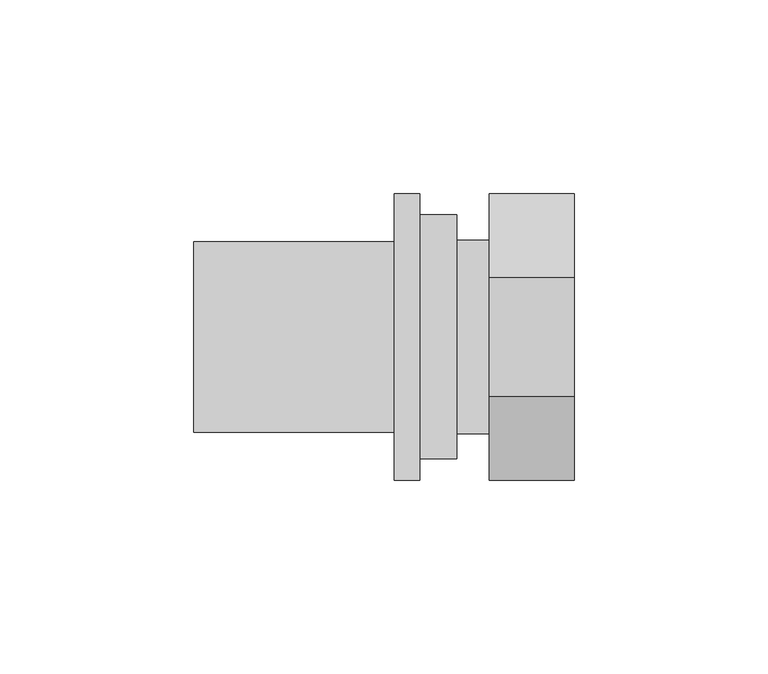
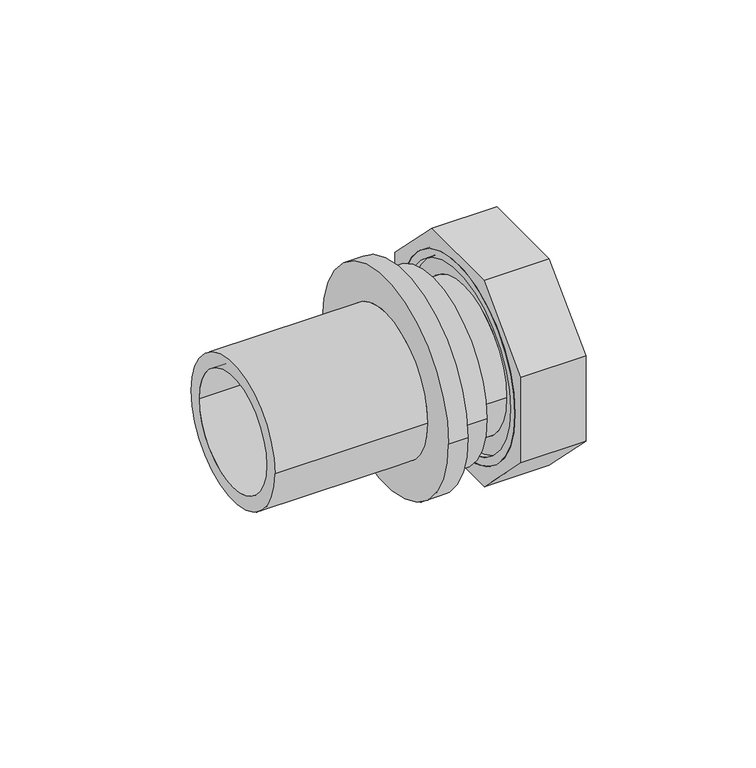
"""IFC4 building model written with IfcOpenShell, lengths in millimetres: pipe fitting geometry, REHAU_RAUTITAN_Adaptor_RX+_union nut : REHAU_RAUTITAN_Adaptor_RX+_union nut."""

from ifc_helpers import new_model, si_unit, point, frame, origin, origin_2d, place, context, project, spatial, polyline, circle_curve, trimmed, segment, composite_curve, outline, extrude, source, transform, mapped, element, save
from ifc_brep_helpers import plane_surface, cylinder_surface, revolved_surface, advanced_brep


def pipe_fitting_1432e17d(model_context):
    return source(origin(), model_context, "Body", "SolidModel", [
        extrude(outline(polyline([(-15.3259018, -37.0), (-37.0, -15.3259018), (-37.0, 15.3259018), (-15.3259018, 37.0), (15.3259018, 37.0), (37.0, 15.3259018), (37.0, -15.3259018), (15.3259018, -37.0), (-15.3259018, -37.0)]), holes=[composite_curve([segment(trimmed(circle_curve(origin_2d(), 33.5), [point((-33.5, 0.0))], [point((33.5, 0.0))], True, "CARTESIAN"), True, "CONTINUOUS"), segment(trimmed(circle_curve(origin_2d(), 33.5), [point((33.5, 0.0))], [point((-33.5, 0.0))], True, "CARTESIAN"), True, "CONTINUOUS")], self_intersect=False)]), frame((8.4, 0.0, 0.0), z_axis=(1.0, 0.0, 0.0), x_axis=(0.0, 1.0, 0.0)), (0.0, 0.0, 1.0), 22.0),
        advanced_brep(
        [(30.4, 33.5, 0.0), (30.4, -33.5, 0.0), (8.4, -33.5, 0.0), (8.4, 33.5, 0.0), (10.4, 32.7, 0.0), (10.4, -32.7, 0.0), (30.4, -32.7, 0.0), (30.4, 32.7, 0.0), (8.4, 30.7, 0.0), (8.4, -30.7, 0.0), (10.4, -30.7, 0.0), (10.4, 30.7, 0.0)],
        [
            (0, 1, circle_curve(frame((30.4, 0.0, 0.0), z_axis=(-1.0, 0.0, 0.0), x_axis=(0.0, -1.0, 0.0)), 33.5)),
            (1, 2),
            (2, 3, circle_curve(frame((8.4, 0.0, 0.0), z_axis=(1.0, 0.0, 0.0), x_axis=(0.0, -1.0, 0.0)), 33.5)),
            (3, 0),
            (4, 5, circle_curve(frame((10.4, 0.0, 0.0), z_axis=(-1.0, 0.0, 0.0), x_axis=(0.0, -1.0, 0.0)), 32.7)),
            (5, 6),
            (6, 7, circle_curve(frame((30.4, 0.0, 0.0), z_axis=(1.0, 0.0, 0.0), x_axis=(0.0, -1.0, 0.0)), 32.7)),
            (7, 4),
            (8, 9, circle_curve(frame((8.4, 0.0, 0.0), z_axis=(-1.0, 0.0, 0.0), x_axis=(0.0, -1.0, 0.0)), 30.7)),
            (9, 10),
            (10, 11, circle_curve(frame((10.4, 0.0, 0.0), z_axis=(1.0, 0.0, 0.0), x_axis=(0.0, -1.0, 0.0)), 30.7)),
            (11, 8),
            (1, 0, circle_curve(frame((30.4, 0.0, 0.0), z_axis=(-1.0, 0.0, 0.0), x_axis=(0.0, 1.0, 0.0)), 33.5)),
            (3, 2, circle_curve(frame((8.4, 0.0, 0.0), z_axis=(1.0, 0.0, 0.0), x_axis=(0.0, 1.0, 0.0)), 33.5)),
            (6, 7, circle_curve(frame((30.4, 0.0, 0.0), z_axis=(-1.0, 0.0, 0.0), x_axis=(0.0, 1.0, 0.0)), 32.7)),
            (5, 4, circle_curve(frame((10.4, 0.0, 0.0), z_axis=(-1.0, 0.0, 0.0), x_axis=(0.0, 1.0, 0.0)), 32.7)),
            (10, 11, circle_curve(frame((10.4, 0.0, 0.0), z_axis=(-1.0, 0.0, 0.0), x_axis=(0.0, 1.0, 0.0)), 30.7)),
            (9, 8, circle_curve(frame((8.4, 0.0, 0.0), z_axis=(-1.0, 0.0, 0.0), x_axis=(0.0, 1.0, 0.0)), 30.7)),
        ],
        [
            cylinder_surface(frame((0.0, 0.0, 0.0), z_axis=(1.0, 0.0, 0.0), x_axis=(0.0, -1.0, 0.0)), 33.5),
            revolved_surface(polyline([(30.4, -32.7, 0.0), (10.4, -32.7, 0.0)]), (0.0, 0.0, 0.0), (1.0, 0.0, 0.0)),
            revolved_surface(polyline([(10.4, -30.7, 0.0), (8.4, -30.7, 0.0)]), (0.0, 0.0, 0.0), (1.0, 0.0, 0.0)),
            cylinder_surface(frame((0.0, 0.0, 0.0), z_axis=(1.0, 0.0, 0.0), x_axis=(0.0, 1.0, 0.0)), 33.5),
            plane_surface(frame((30.4, 0.0, 0.0), z_axis=(1.0, 0.0, 0.0), x_axis=(0.0, 1.0, 0.0))),
            revolved_surface(polyline([(30.4, 32.7, 0.0), (10.4, 32.7, 0.0)]), (0.0, 0.0, 0.0), (1.0, 0.0, 0.0)),
            plane_surface(frame((10.4, 0.0, 0.0), z_axis=(1.0, 0.0, 0.0), x_axis=(0.0, 1.0, 0.0))),
            revolved_surface(polyline([(10.4, 30.7, 0.0), (8.4, 30.7, 0.0)]), (0.0, 0.0, 0.0), (1.0, 0.0, 0.0)),
            plane_surface(frame((8.4, 0.0, 0.0), z_axis=(-1.0, 0.0, 0.0), x_axis=(0.0, 1.0, 0.0))),
        ],
        [
            (0, [[1, 2, 3, 4]]),
            (1, [[5, 6, 7, 8]]),
            (2, [[9, 10, 11, 12]]),
            (3, [[13, -4, 14, -2]]),
            (4, [[-13, -1], [15, -7]]),
            (5, [[16, -8, -15, -6]]),
            (6, [[-16, -5], [17, -11]]),
            (7, [[18, -12, -17, -10]]),
            (8, [[-14, -3], [-18, -9]]),
        ],
    ),
        advanced_brep(
        [(10.4, 25.0, 0.0), (10.4, -25.0, 0.0), (0.0, -25.0, 0.0), (0.0, 25.0, 0.0), (14.0, 32.7, 0.0), (14.0, -32.7, 0.0), (10.4, -32.7, 0.0), (10.4, 32.7, 0.0), (1.4730817, 18.75, 0.0), (1.4730817, -18.75, 0.0), (14.0, -18.75, 0.0), (14.0, 18.75, 0.0), (0.0, 16.5764556, 0.0), (0.0, -16.5764556, 0.0), (1.4730817, -16.5764556, 0.0), (1.4730817, 16.5764556, 0.0)],
        [
            (0, 1, circle_curve(frame((10.4, 0.0, 0.0), z_axis=(-1.0, 0.0, 0.0), x_axis=(0.0, -1.0, 0.0)), 25.0)),
            (1, 2),
            (2, 3, circle_curve(frame((0.0, 0.0, 0.0), z_axis=(1.0, 0.0, 0.0), x_axis=(0.0, -1.0, 0.0)), 25.0)),
            (3, 0),
            (4, 5, circle_curve(frame((14.0, 0.0, 0.0), z_axis=(-1.0, 0.0, 0.0), x_axis=(0.0, -1.0, 0.0)), 32.7)),
            (5, 6),
            (6, 7, circle_curve(frame((10.4, 0.0, 0.0), z_axis=(1.0, 0.0, 0.0), x_axis=(0.0, -1.0, 0.0)), 32.7)),
            (7, 4),
            (8, 9, circle_curve(frame((1.4730817, 0.0, 0.0), z_axis=(-1.0, 0.0, 0.0), x_axis=(0.0, -1.0, 0.0)), 18.75)),
            (9, 10),
            (10, 11, circle_curve(frame((14.0, 0.0, 0.0), z_axis=(1.0, 0.0, 0.0), x_axis=(0.0, -1.0, 0.0)), 18.75)),
            (11, 8),
            (2, 3, circle_curve(frame((0.0, 0.0, 0.0), z_axis=(-1.0, 0.0, 0.0), x_axis=(0.0, 1.0, 0.0)), 25.0)),
            (12, 13, circle_curve(frame((0.0, 0.0, 0.0), z_axis=(1.0, 0.0, 0.0), x_axis=(0.0, 1.0, 0.0)), 16.5764556)),
            (13, 12, circle_curve(frame((0.0, 0.0, 0.0), z_axis=(1.0, 0.0, 0.0), x_axis=(0.0, -1.0, 0.0)), 16.5764556)),
            (1, 0, circle_curve(frame((10.4, 0.0, 0.0), z_axis=(-1.0, 0.0, 0.0), x_axis=(0.0, 1.0, 0.0)), 25.0)),
            (6, 7, circle_curve(frame((10.4, 0.0, 0.0), z_axis=(-1.0, 0.0, 0.0), x_axis=(0.0, 1.0, 0.0)), 32.7)),
            (5, 4, circle_curve(frame((14.0, 0.0, 0.0), z_axis=(-1.0, 0.0, 0.0), x_axis=(0.0, 1.0, 0.0)), 32.7)),
            (10, 11, circle_curve(frame((14.0, 0.0, 0.0), z_axis=(-1.0, 0.0, 0.0), x_axis=(0.0, 1.0, 0.0)), 18.75)),
            (9, 8, circle_curve(frame((1.4730817, 0.0, 0.0), z_axis=(-1.0, 0.0, 0.0), x_axis=(0.0, 1.0, 0.0)), 18.75)),
            (13, 14),
            (14, 15, circle_curve(frame((1.4730817, 0.0, 0.0), z_axis=(1.0, 0.0, 0.0), x_axis=(0.0, -1.0, 0.0)), 16.5764556)),
            (15, 12),
            (14, 15, circle_curve(frame((1.4730817, 0.0, 0.0), z_axis=(-1.0, 0.0, 0.0), x_axis=(0.0, 1.0, 0.0)), 16.5764556)),
        ],
        [
            cylinder_surface(frame((0.0, 0.0, 0.0), z_axis=(1.0, 0.0, 0.0), x_axis=(0.0, -1.0, 0.0)), 25.0),
            cylinder_surface(frame((0.0, 0.0, 0.0), z_axis=(1.0, 0.0, 0.0), x_axis=(0.0, -1.0, 0.0)), 32.7),
            revolved_surface(polyline([(14.0, -18.75, 0.0), (1.4730817, -18.75, 0.0)]), (0.0, 0.0, 0.0), (1.0, 0.0, 0.0)),
            plane_surface(frame((0.0, 0.0, 0.0), z_axis=(-1.0, 0.0, 0.0), x_axis=(0.0, 1.0, 0.0))),
            cylinder_surface(frame((0.0, 0.0, 0.0), z_axis=(1.0, 0.0, 0.0), x_axis=(0.0, 1.0, 0.0)), 25.0),
            plane_surface(frame((10.4, 0.0, 0.0), z_axis=(-1.0, 0.0, 0.0), x_axis=(0.0, 1.0, 0.0))),
            cylinder_surface(frame((0.0, 0.0, 0.0), z_axis=(1.0, 0.0, 0.0), x_axis=(0.0, 1.0, 0.0)), 32.7),
            plane_surface(frame((14.0, 0.0, 0.0), z_axis=(1.0, 0.0, 0.0), x_axis=(0.0, 1.0, 0.0))),
            revolved_surface(polyline([(14.0, 18.75, 0.0), (1.4730817, 18.75, 0.0)]), (0.0, 0.0, 0.0), (1.0, 0.0, 0.0)),
            revolved_surface(polyline([(1.4730817, -16.5764556, 0.0), (0.0, -16.5764556, 0.0)]), (0.0, 0.0, 0.0), (1.0, 0.0, 0.0)),
            plane_surface(frame((1.4730817, 0.0, 0.0), z_axis=(1.0, 0.0, 0.0), x_axis=(0.0, 1.0, 0.0))),
            revolved_surface(polyline([(1.4730817, 16.5764556, 0.0), (0.0, 16.5764556, 0.0)]), (0.0, 0.0, 0.0), (1.0, 0.0, 0.0)),
        ],
        [
            (0, [[1, 2, 3, 4]]),
            (1, [[5, 6, 7, 8]]),
            (2, [[9, 10, 11, 12]]),
            (3, [[13, -3], [14, 15]]),
            (4, [[16, -4, -13, -2]]),
            (5, [[17, -7], [-16, -1]]),
            (6, [[18, -8, -17, -6]]),
            (7, [[-18, -5], [19, -11]]),
            (8, [[20, -12, -19, -10]]),
            (9, [[-15, 21, 22, 23]]),
            (10, [[-20, -9], [24, -22]]),
            (11, [[-14, -23, -24, -21]]),
        ],
    ),
        advanced_brep(
        [(0.0, 31.5, 0.0), (0.0, -31.5, 0.0), (-9.6, -31.5, 0.0), (-9.6, 31.5, 0.0), (-68.0, 19.75, 0.0), (-68.0, -19.75, 0.0), (0.0, -19.75, 0.0), (0.0, 19.75, 0.0), (-16.2, 24.6, 0.0), (-16.2, -24.6, 0.0), (-68.0, -24.6, 0.0), (-68.0, 24.6, 0.0), (-9.6, 37.0, 0.0), (-9.6, -37.0, 0.0), (-16.2, -37.0, 0.0), (-16.2, 37.0, 0.0)],
        [
            (0, 1, circle_curve(frame((0.0, 0.0, 0.0), z_axis=(-1.0, 0.0, 0.0), x_axis=(0.0, -1.0, 0.0)), 31.5)),
            (1, 2),
            (2, 3, circle_curve(frame((-9.6, 0.0, 0.0), z_axis=(1.0, 0.0, 0.0), x_axis=(0.0, -1.0, 0.0)), 31.5)),
            (3, 0),
            (4, 5, circle_curve(frame((-68.0, 0.0, 0.0), z_axis=(-1.0, 0.0, 0.0), x_axis=(0.0, -1.0, 0.0)), 19.75)),
            (5, 6),
            (6, 7, circle_curve(frame((0.0, 0.0, 0.0), z_axis=(1.0, 0.0, 0.0), x_axis=(0.0, -1.0, 0.0)), 19.75)),
            (7, 4),
            (8, 9, circle_curve(frame((-16.2, 0.0, 0.0), z_axis=(-1.0, 0.0, 0.0), x_axis=(0.0, -1.0, 0.0)), 24.6)),
            (9, 10),
            (10, 11, circle_curve(frame((-68.0, 0.0, 0.0), z_axis=(1.0, 0.0, 0.0), x_axis=(0.0, -1.0, 0.0)), 24.6)),
            (11, 8),
            (12, 13, circle_curve(frame((-9.6, 0.0, 0.0), z_axis=(-1.0, 0.0, 0.0), x_axis=(0.0, -1.0, 0.0)), 37.0)),
            (13, 14),
            (14, 15, circle_curve(frame((-16.2, 0.0, 0.0), z_axis=(1.0, 0.0, 0.0), x_axis=(0.0, -1.0, 0.0)), 37.0)),
            (15, 12),
            (1, 0, circle_curve(frame((0.0, 0.0, 0.0), z_axis=(-1.0, 0.0, 0.0), x_axis=(0.0, 1.0, 0.0)), 31.5)),
            (3, 2, circle_curve(frame((-9.6, 0.0, 0.0), z_axis=(1.0, 0.0, 0.0), x_axis=(0.0, 1.0, 0.0)), 31.5)),
            (6, 7, circle_curve(frame((0.0, 0.0, 0.0), z_axis=(-1.0, 0.0, 0.0), x_axis=(0.0, 1.0, 0.0)), 19.75)),
            (5, 4, circle_curve(frame((-68.0, 0.0, 0.0), z_axis=(-1.0, 0.0, 0.0), x_axis=(0.0, 1.0, 0.0)), 19.75)),
            (10, 11, circle_curve(frame((-68.0, 0.0, 0.0), z_axis=(-1.0, 0.0, 0.0), x_axis=(0.0, 1.0, 0.0)), 24.6)),
            (9, 8, circle_curve(frame((-16.2, 0.0, 0.0), z_axis=(-1.0, 0.0, 0.0), x_axis=(0.0, 1.0, 0.0)), 24.6)),
            (14, 15, circle_curve(frame((-16.2, 0.0, 0.0), z_axis=(-1.0, 0.0, 0.0), x_axis=(0.0, 1.0, 0.0)), 37.0)),
            (13, 12, circle_curve(frame((-9.6, 0.0, 0.0), z_axis=(-1.0, 0.0, 0.0), x_axis=(0.0, 1.0, 0.0)), 37.0)),
        ],
        [
            cylinder_surface(frame((0.0, 0.0, 0.0), z_axis=(1.0, 0.0, 0.0), x_axis=(0.0, -1.0, 0.0)), 31.5),
            revolved_surface(polyline([(0.0, -19.75, 0.0), (-68.0, -19.75, 0.0)]), (0.0, 0.0, 0.0), (1.0, 0.0, 0.0)),
            cylinder_surface(frame((0.0, 0.0, 0.0), z_axis=(1.0, 0.0, 0.0), x_axis=(0.0, -1.0, 0.0)), 24.6),
            cylinder_surface(frame((0.0, 0.0, 0.0), z_axis=(1.0, 0.0, 0.0), x_axis=(0.0, -1.0, 0.0)), 37.0),
            cylinder_surface(frame((0.0, 0.0, 0.0), z_axis=(1.0, 0.0, 0.0), x_axis=(0.0, 1.0, 0.0)), 31.5),
            plane_surface(frame((0.0, 0.0, 0.0), z_axis=(1.0, 0.0, 0.0), x_axis=(0.0, 1.0, 0.0))),
            revolved_surface(polyline([(0.0, 19.75, 0.0), (-68.0, 19.75, 0.0)]), (0.0, 0.0, 0.0), (1.0, 0.0, 0.0)),
            plane_surface(frame((-68.0, 0.0, 0.0), z_axis=(-1.0, 0.0, 0.0), x_axis=(0.0, 1.0, 0.0))),
            cylinder_surface(frame((0.0, 0.0, 0.0), z_axis=(1.0, 0.0, 0.0), x_axis=(0.0, 1.0, 0.0)), 24.6),
            plane_surface(frame((-16.2, 0.0, 0.0), z_axis=(-1.0, 0.0, 0.0), x_axis=(0.0, 1.0, 0.0))),
            cylinder_surface(frame((0.0, 0.0, 0.0), z_axis=(1.0, 0.0, 0.0), x_axis=(0.0, 1.0, 0.0)), 37.0),
            plane_surface(frame((-9.6, 0.0, 0.0), z_axis=(1.0, 0.0, 0.0), x_axis=(0.0, 1.0, 0.0))),
        ],
        [
            (0, [[1, 2, 3, 4]]),
            (1, [[5, 6, 7, 8]]),
            (2, [[9, 10, 11, 12]]),
            (3, [[13, 14, 15, 16]]),
            (4, [[17, -4, 18, -2]]),
            (5, [[-17, -1], [19, -7]]),
            (6, [[20, -8, -19, -6]]),
            (7, [[21, -11], [-20, -5]]),
            (8, [[22, -12, -21, -10]]),
            (9, [[23, -15], [-22, -9]]),
            (10, [[24, -16, -23, -14]]),
            (11, [[-24, -13], [-18, -3]]),
        ],
    ),
    ])


if __name__ == "__main__":
    model = new_model("IFC4")
    model_context = context("Model", 3, world=origin())
    ifc_project = project(units=[si_unit("LENGTHUNIT", "METRE", prefix="MILLI")], contexts=[model_context])
    site = spatial("IfcSite", under=ifc_project)
    building = spatial("IfcBuilding", under=site)
    placement = place(None, origin())
    pipe_fitting_shape = pipe_fitting_1432e17d(model_context)
    element("IfcPipeFitting", 1, ObjectType="REHAU_RAUTITAN_Adaptor_RX+_union nut : REHAU_RAUTITAN_Adaptor_RX+_union nut", at=placement, inside=building, context=model_context, shape_type="MappedRepresentation", body=[
        mapped(pipe_fitting_shape, transform((0.0, 0.0, 0.0), x_axis=(1.0, 0.0, 0.0), y_axis=(0.0, 1.0, 0.0), z_axis=(0.0, 0.0, 1.0))),
    ])
    save(model, "model.ifc")
